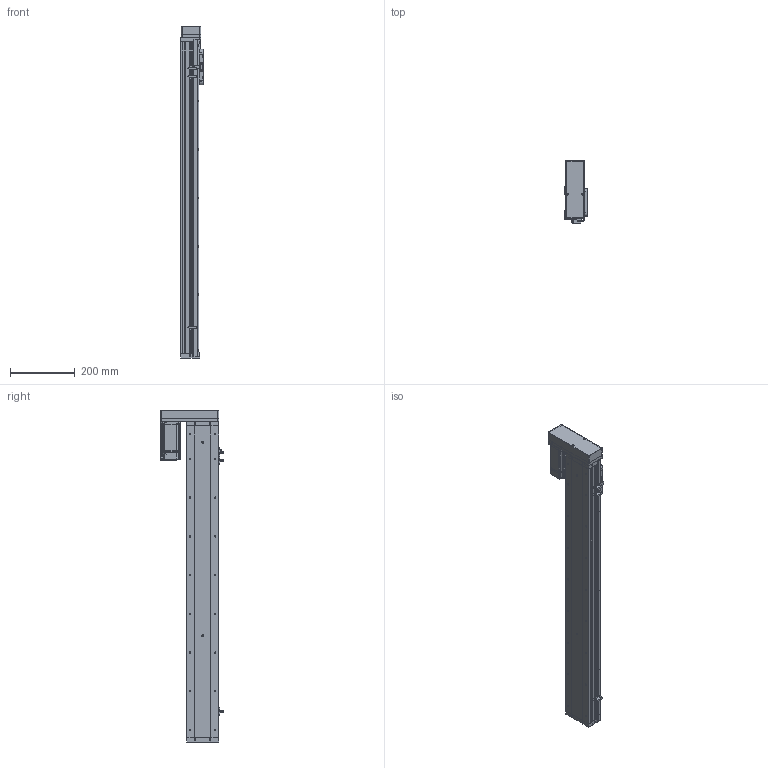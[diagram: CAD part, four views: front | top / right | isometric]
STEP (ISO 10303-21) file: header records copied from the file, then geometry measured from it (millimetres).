
FILE_DESCRIPTION (( 'STEP AP214' ), '1' );
FILE_NAME ('KSD100S-S800-ML-CR.STEP', '2019-09-02T08:23:22', ( '微软用户' ), ( '微软中国' ), 'SwSTEP 2.0', 'SolidWorks 2014', '' );
FILE_SCHEMA (( 'AUTOMOTIVE_DESIGN' ));
Length unit declared in the file: millimetre
Products named in the file (14): 100宽马达安装板连板左右折丝杆; U倰嫖萇EEㄜSX672; 感应片100宽全封闭; 100宽马达安装板全封闭; 100宽端板全封闭; 100宽滚珠螺姆安装板1防护罩; 100宽滚珠螺姆安装板1; 100遵裔啣揤啣; 100遵裔啣800俴最; 100遵耜啣800俴最佪裝; 100宽底板全封闭800行程丝杆; KSD100S-S800-ML-CR; MHMD042G1CA_2_03; 悵誘欶酘衵殏
Assembly tree (17 placements, depth 2):
  KSD100S-S800-ML-CR
    100宽底板全封闭800行程丝杆
    100遵耜啣800俴最佪裝  x2
    100遵裔啣800俴最
    100遵裔啣揤啣  x2
    100宽滚珠螺姆安装板1
    100宽滚珠螺姆安装板1防护罩
    100宽端板全封闭
    100宽马达安装板全封闭
    感应片100宽全封闭
    U倰嫖萇EEㄜSX672  x3
    100宽马达安装板连板左右折丝杆
    悵誘欶酘衵殏
    MHMD042G1CA_2_03
Bounding box: 70 x 193.7 x 1028.5 mm (x, y, z)
Volume: 2073114.6 mm3; surface area: 933413 mm2
Topology: 16 solids, 17 shells, 1737 faces, 4848 edges, 3078 vertices
Faces by surface type: cylinder 759, plane 703, cone 257, bspline 18
Entity records: 58182 total; most frequent: CARTESIAN_POINT 9196, DIRECTION 8275, ORIENTED_EDGE 7636, EDGE_CURVE 3890, AXIS2_PLACEMENT_3D 2977, VERTEX_POINT 2576, VECTOR 2321, LINE 2321
